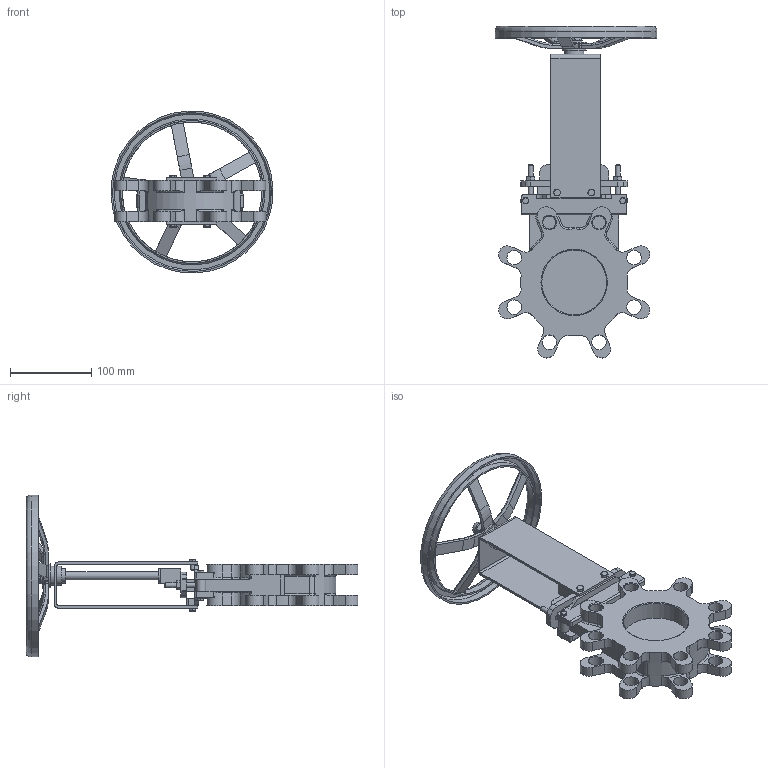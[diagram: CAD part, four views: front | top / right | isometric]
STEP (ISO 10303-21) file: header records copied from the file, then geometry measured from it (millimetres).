
FILE_DESCRIPTION(('STEP AP214'), '1');
FILE_NAME('GVKN1331N-2W-Fb-S Çàäâèæêà øèáåðíàÿ DN.ru Äó80 Ðó10', '', ('UNSPECIFIED'), ('UNSPECIFIED'), 'C3D Converter', 'C3D Toolkit', '');
FILE_SCHEMA(('AUTOMOTIVE_DESIGN { 1 0 10303 214 3 1 1}'));
Length unit declared in the file: millimetre
Products named in the file (1): GVKN1331N-2W-Fb-S
Bounding box: 199.76 x 409.69 x 199.76 mm (x, y, z)
Volume: 937212 mm3; surface area: 267977.8 mm2
Topology: 1 solids, 1 shells, 852 faces, 2178 edges, 1356 vertices
Faces by surface type: plane 397, cylinder 219, bspline 88, cone 84, torus 63, sphere 1
Full cylindrical faces by diameter (mm): 5 x2, 6 x6, 7 x6, 8 x4, 10 x1, 16 x6, 18 x14, 20 x1, 24 x2, 26 x1, 30 x1, 80 x2, 172.37 x1, 176.37 x1, 196 x1, 200 x1
Entity records: 45347 total; most frequent: CARTESIAN_POINT 20437, ORIENTED_EDGE 4218, DIRECTION 3855, EDGE_CURVE 2109, AXIS2_PLACEMENT_3D 1443, VERTEX_POINT 1355, EDGE_LOOP 998, LINE 969
